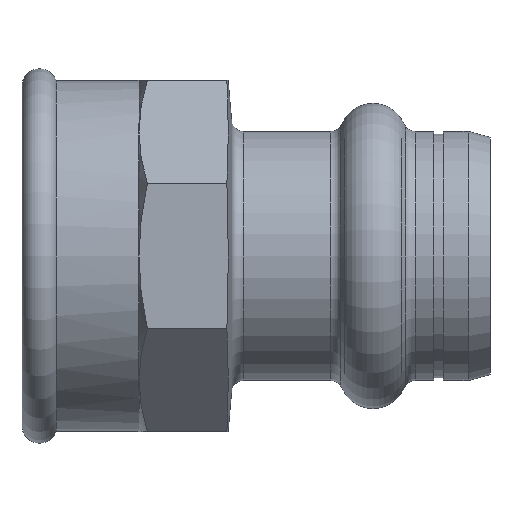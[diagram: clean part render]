
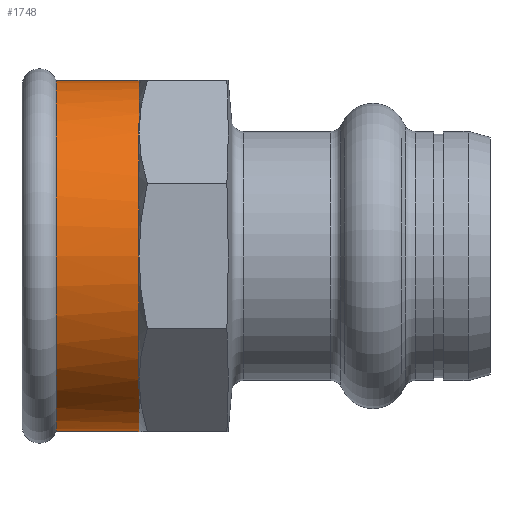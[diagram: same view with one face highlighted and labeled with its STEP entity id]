
A CAD part, left-side view. The second image highlights one B-rep face of the part: STEP entity #1748.
In plain terms, the highlighted cylindrical face has radius 15 mm (diameter 30 mm), a partial arc.
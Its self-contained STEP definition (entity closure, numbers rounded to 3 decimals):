
#22 = ORIENTED_EDGE ( 'NONE', *, *, #1250, .T. ) ;
#64 = CARTESIAN_POINT ( 'NONE',  ( 0., 30., 0. ) ) ;
#69 = ORIENTED_EDGE ( 'NONE', *, *, #1512, .F. ) ;
#80 = EDGE_CURVE ( 'NONE', #1006, #553, #460, .T. ) ;
#103 = VERTEX_POINT ( 'NONE', #564 ) ;
#107 = VERTEX_POINT ( 'NONE', #1671 ) ;
#138 = VECTOR ( 'NONE', #257, 1000. ) ;
#150 = FACE_OUTER_BOUND ( 'NONE', #1654, .T. ) ;
#165 = ORIENTED_EDGE ( 'NONE', *, *, #80, .F. ) ;
#172 = CARTESIAN_POINT ( 'NONE',  ( -10.607, 30., 10.607 ) ) ;
#257 = DIRECTION ( 'NONE',  ( 0., -1., 0. ) ) ;
#264 = CARTESIAN_POINT ( 'NONE',  ( 0., -17.811, 15. ) ) ;
#269 = AXIS2_PLACEMENT_3D ( 'NONE', #916, #518, #1620 ) ;
#324 = ORIENTED_EDGE ( 'NONE', *, *, #999, .F. ) ;
#368 = CARTESIAN_POINT ( 'NONE',  ( 0., -17.811, 0. ) ) ;
#376 = DIRECTION ( 'NONE',  ( 0., -1., 0. ) ) ;
#454 = AXIS2_PLACEMENT_3D ( 'NONE', #1706, #645, #947 ) ;
#460 = CIRCLE ( 'NONE', #269, 15. ) ;
#518 = DIRECTION ( 'NONE',  ( 0., -1., 0. ) ) ;
#553 = VERTEX_POINT ( 'NONE', #583 ) ;
#560 = CIRCLE ( 'NONE', #1614, 15. ) ;
#564 = CARTESIAN_POINT ( 'NONE',  ( 0., 37.086, -15. ) ) ;
#583 = CARTESIAN_POINT ( 'NONE',  ( -15., 30., 0. ) ) ;
#613 = CIRCLE ( 'NONE', #1510, 15. ) ;
#645 = DIRECTION ( 'NONE',  ( 0., -1., 0. ) ) ;
#686 = CIRCLE ( 'NONE', #454, 15. ) ;
#696 = AXIS2_PLACEMENT_3D ( 'NONE', #368, #376, #1547 ) ;
#742 = ORIENTED_EDGE ( 'NONE', *, *, #1207, .T. ) ;
#916 = CARTESIAN_POINT ( 'NONE',  ( 0., 30., 0. ) ) ;
#918 = CYLINDRICAL_SURFACE ( 'NONE', #696, 15. ) ;
#925 = DIRECTION ( 'NONE',  ( 0., 0., -1. ) ) ;
#937 = CARTESIAN_POINT ( 'NONE',  ( 0., 30., 0. ) ) ;
#947 = DIRECTION ( 'NONE',  ( 0., 0., -1. ) ) ;
#949 = LINE ( 'NONE', #264, #138 ) ;
#972 = DIRECTION ( 'NONE',  ( 0., -1., 0. ) ) ;
#984 = DIRECTION ( 'NONE',  ( 0., 0., -1. ) ) ;
#999 = EDGE_CURVE ( 'NONE', #107, #1082, #949, .T. ) ;
#1006 = VERTEX_POINT ( 'NONE', #172 ) ;
#1051 = VECTOR ( 'NONE', #1922, 1000. ) ;
#1082 = VERTEX_POINT ( 'NONE', #1623 ) ;
#1100 = CARTESIAN_POINT ( 'NONE',  ( 0., 30., -15. ) ) ;
#1207 = EDGE_CURVE ( 'NONE', #103, #1823, #1506, .T. ) ;
#1250 = EDGE_CURVE ( 'NONE', #107, #103, #560, .T. ) ;
#1255 = DIRECTION ( 'NONE',  ( 0., 0., -1. ) ) ;
#1302 = CARTESIAN_POINT ( 'NONE',  ( 0., 37.086, 0. ) ) ;
#1316 = DIRECTION ( 'NONE',  ( 0., -1., 0. ) ) ;
#1454 = ORIENTED_EDGE ( 'NONE', *, *, #1507, .F. ) ;
#1494 = DIRECTION ( 'NONE',  ( 0., -1., 0. ) ) ;
#1506 = LINE ( 'NONE', #1740, #1051 ) ;
#1507 = EDGE_CURVE ( 'NONE', #553, #1721, #613, .T. ) ;
#1510 = AXIS2_PLACEMENT_3D ( 'NONE', #64, #1494, #925 ) ;
#1512 = EDGE_CURVE ( 'NONE', #1082, #1006, #1683, .T. ) ;
#1522 = CARTESIAN_POINT ( 'NONE',  ( -10.607, 30., -10.607 ) ) ;
#1547 = DIRECTION ( 'NONE',  ( 0., 0., -1. ) ) ;
#1614 = AXIS2_PLACEMENT_3D ( 'NONE', #1302, #1316, #1255 ) ;
#1620 = DIRECTION ( 'NONE',  ( 0., 0., -1. ) ) ;
#1621 = AXIS2_PLACEMENT_3D ( 'NONE', #937, #972, #984 ) ;
#1623 = CARTESIAN_POINT ( 'NONE',  ( 0., 30., 15. ) ) ;
#1637 = ORIENTED_EDGE ( 'NONE', *, *, #1898, .F. ) ;
#1654 = EDGE_LOOP ( 'NONE', ( #324, #22, #742, #1637, #1454, #165, #69 ) ) ;
#1671 = CARTESIAN_POINT ( 'NONE',  ( 0., 37.086, 15. ) ) ;
#1683 = CIRCLE ( 'NONE', #1621, 15. ) ;
#1706 = CARTESIAN_POINT ( 'NONE',  ( 0., 30., 0. ) ) ;
#1721 = VERTEX_POINT ( 'NONE', #1522 ) ;
#1740 = CARTESIAN_POINT ( 'NONE',  ( 0., -17.811, -15. ) ) ;
#1748 = ADVANCED_FACE ( 'NONE', ( #150 ), #918, .T. ) ;
#1823 = VERTEX_POINT ( 'NONE', #1100 ) ;
#1898 = EDGE_CURVE ( 'NONE', #1721, #1823, #686, .T. ) ;
#1922 = DIRECTION ( 'NONE',  ( 0., -1., 0. ) ) ;
